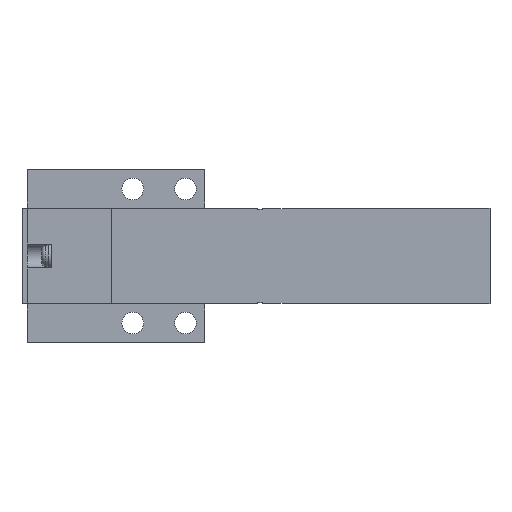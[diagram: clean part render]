
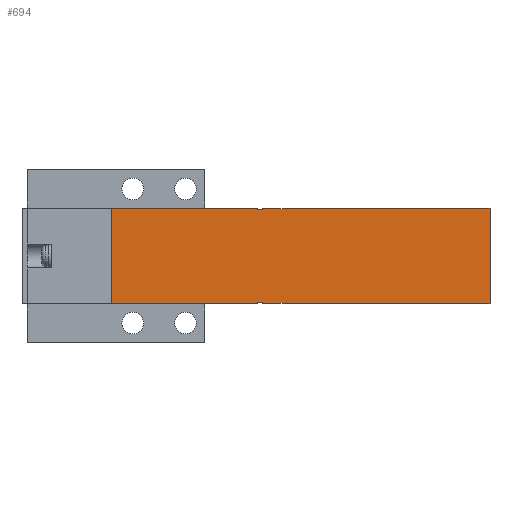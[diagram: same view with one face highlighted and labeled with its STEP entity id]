
A CAD part, front view. The second image highlights one B-rep face of the part: STEP entity #694.
In plain terms, the highlighted planar face has unit normal (0, -1, 0).
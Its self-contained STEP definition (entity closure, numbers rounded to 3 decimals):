
#694=ADVANCED_FACE('',(#1529),#1530,.F.);
#1529=FACE_OUTER_BOUND('',#2435,.T.);
#1530=PLANE('',#2436);
#2435=EDGE_LOOP('',(#5536,#5537,#5538,#5539,#5540,#5541,#5542,#5543,#5544,#5545,#5546,#5547,#5548,#5549,#5550,#5551,#5552,#5553,#5554,#5555,#5556,#5557,#5558,#5559));
#2436=AXIS2_PLACEMENT_3D('',#5560,#5561,#5562);
#5536=ORIENTED_EDGE('',*,*,#6568,.F.);
#5537=ORIENTED_EDGE('',*,*,#6765,.T.);
#5538=ORIENTED_EDGE('',*,*,#6648,.T.);
#5539=ORIENTED_EDGE('',*,*,#6640,.F.);
#5540=ORIENTED_EDGE('',*,*,#6795,.F.);
#5541=ORIENTED_EDGE('',*,*,#6783,.T.);
#5542=ORIENTED_EDGE('',*,*,#6793,.F.);
#5543=ORIENTED_EDGE('',*,*,#6741,.T.);
#5544=ORIENTED_EDGE('',*,*,#6736,.F.);
#5545=ORIENTED_EDGE('',*,*,#6618,.T.);
#5546=ORIENTED_EDGE('',*,*,#6597,.T.);
#5547=ORIENTED_EDGE('',*,*,#6693,.T.);
#5548=ORIENTED_EDGE('',*,*,#6682,.T.);
#5549=ORIENTED_EDGE('',*,*,#6800,.F.);
#5550=ORIENTED_EDGE('',*,*,#6797,.T.);
#5551=ORIENTED_EDGE('',*,*,#6643,.F.);
#5552=ORIENTED_EDGE('',*,*,#6654,.T.);
#5553=ORIENTED_EDGE('',*,*,#6764,.T.);
#5554=ORIENTED_EDGE('',*,*,#6554,.T.);
#5555=ORIENTED_EDGE('',*,*,#6791,.T.);
#5556=ORIENTED_EDGE('',*,*,#6700,.T.);
#5557=ORIENTED_EDGE('',*,*,#6626,.F.);
#5558=ORIENTED_EDGE('',*,*,#6606,.F.);
#5559=ORIENTED_EDGE('',*,*,#6766,.F.);
#5560=CARTESIAN_POINT('',(18.6,0.0,10.0));
#5561=DIRECTION('',(-0.0,1.0,0.0));
#5562=DIRECTION('',(1.0,0.0,0.0));
#6554=EDGE_CURVE('',#8085,#8086,#8087,.T.);
#6568=EDGE_CURVE('',#8108,#8111,#8112,.T.);
#6597=EDGE_CURVE('',#8165,#8163,#8166,.T.);
#6606=EDGE_CURVE('',#8179,#8182,#8183,.T.);
#6618=EDGE_CURVE('',#8203,#8165,#8204,.T.);
#6626=EDGE_CURVE('',#8182,#8214,#8218,.T.);
#6640=EDGE_CURVE('',#8243,#8244,#8245,.T.);
#6643=EDGE_CURVE('',#8247,#8249,#8250,.T.);
#6648=EDGE_CURVE('',#8256,#8244,#8258,.T.);
#6654=EDGE_CURVE('',#8247,#8267,#8269,.T.);
#6682=EDGE_CURVE('',#8314,#8312,#8315,.T.);
#6693=EDGE_CURVE('',#8163,#8314,#8334,.T.);
#6700=EDGE_CURVE('',#8336,#8214,#8345,.T.);
#6736=EDGE_CURVE('',#8203,#8396,#8397,.T.);
#6741=EDGE_CURVE('',#8405,#8396,#8406,.T.);
#6764=EDGE_CURVE('',#8267,#8085,#8439,.T.);
#6765=EDGE_CURVE('',#8108,#8256,#8440,.T.);
#6766=EDGE_CURVE('',#8111,#8179,#8441,.T.);
#6783=EDGE_CURVE('',#8462,#8460,#8463,.T.);
#6791=EDGE_CURVE('',#8086,#8336,#8472,.T.);
#6793=EDGE_CURVE('',#8405,#8460,#8474,.T.);
#6795=EDGE_CURVE('',#8462,#8243,#8476,.T.);
#6797=EDGE_CURVE('',#8478,#8249,#8479,.T.);
#6800=EDGE_CURVE('',#8478,#8312,#8482,.T.);
#8085=VERTEX_POINT('',#10558);
#8086=VERTEX_POINT('',#10559);
#8087=LINE('',#10560,#10561);
#8108=VERTEX_POINT('',#10618);
#8111=VERTEX_POINT('',#10622);
#8112=LINE('',#10623,#10624);
#8163=VERTEX_POINT('',#10702);
#8165=VERTEX_POINT('',#10705);
#8166=LINE('',#10706,#10707);
#8179=VERTEX_POINT('',#10726);
#8182=VERTEX_POINT('',#10730);
#8183=LINE('',#10731,#10732);
#8203=VERTEX_POINT('',#10763);
#8204=LINE('',#10764,#10765);
#8214=VERTEX_POINT('',#10780);
#8218=LINE('',#10786,#10787);
#8243=VERTEX_POINT('',#10821);
#8244=VERTEX_POINT('',#10822);
#8245=LINE('',#10823,#10824);
#8247=VERTEX_POINT('',#10827);
#8249=VERTEX_POINT('',#10830);
#8250=LINE('',#10831,#10832);
#8256=VERTEX_POINT('',#10841);
#8258=LINE('',#10844,#10845);
#8267=VERTEX_POINT('',#10858);
#8269=LINE('',#10861,#10862);
#8312=VERTEX_POINT('',#10927);
#8314=VERTEX_POINT('',#10930);
#8315=LINE('',#10931,#10932);
#8334=LINE('',#10957,#10958);
#8336=VERTEX_POINT('',#10961);
#8345=LINE('',#10975,#10976);
#8396=VERTEX_POINT('',#11061);
#8397=LINE('',#11062,#11063);
#8405=VERTEX_POINT('',#11074);
#8406=LINE('',#11075,#11076);
#8439=LINE('',#11130,#11131);
#8440=LINE('',#11132,#11133);
#8441=LINE('',#11134,#11135);
#8460=VERTEX_POINT('',#11168);
#8462=VERTEX_POINT('',#11171);
#8463=LINE('',#11172,#11173);
#8472=LINE('',#11188,#11189);
#8474=LINE('',#11192,#11193);
#8476=LINE('',#11196,#11197);
#8478=VERTEX_POINT('',#11200);
#8479=LINE('',#11201,#11202);
#8482=LINE('',#11207,#11208);
#10558=CARTESIAN_POINT('',(50.1,0.0,-9.9));
#10559=CARTESIAN_POINT('',(55.1,0.0,-9.9));
#10560=CARTESIAN_POINT('',(44.1,0.0,-9.9));
#10561=VECTOR('',#12334,1.0);
#10618=CARTESIAN_POINT('',(50.1,0.0,9.9));
#10622=CARTESIAN_POINT('',(55.1,0.0,9.9));
#10623=CARTESIAN_POINT('',(44.1,0.0,9.9));
#10624=VECTOR('',#12351,1.0);
#10702=CARTESIAN_POINT('',(35.1,0.0,-9.9));
#10705=CARTESIAN_POINT('',(18.6,0.0,-9.9));
#10706=CARTESIAN_POINT('',(18.6,0.0,-9.9));
#10707=VECTOR('',#12380,1.0);
#10726=CARTESIAN_POINT('',(55.1,0.0,10.0));
#10730=CARTESIAN_POINT('',(97.6,0.0,10.0));
#10731=CARTESIAN_POINT('',(18.6,0.0,10.0));
#10732=VECTOR('',#12391,1.0);
#10763=CARTESIAN_POINT('',(18.6,0.0,9.9));
#10764=CARTESIAN_POINT('',(18.6,0.0,10.0));
#10765=VECTOR('',#12403,1.0);
#10780=CARTESIAN_POINT('',(97.6,0.0,-10.0));
#10786=CARTESIAN_POINT('',(97.6,0.0,10.0));
#10787=VECTOR('',#12411,1.0);
#10821=CARTESIAN_POINT('',(49.1,0.0,9.9));
#10822=CARTESIAN_POINT('',(49.1,0.0,9.8));
#10823=CARTESIAN_POINT('',(49.1,0.0,10.0));
#10824=VECTOR('',#12433,1.0);
#10827=CARTESIAN_POINT('',(49.1,0.0,-9.8));
#10830=CARTESIAN_POINT('',(49.1,0.0,-9.9));
#10831=CARTESIAN_POINT('',(49.1,0.0,10.0));
#10832=VECTOR('',#12436,1.0);
#10841=CARTESIAN_POINT('',(50.1,0.0,9.8));
#10844=CARTESIAN_POINT('',(18.6,0.0,9.8));
#10845=VECTOR('',#12441,1.0);
#10858=CARTESIAN_POINT('',(50.1,0.0,-9.8));
#10861=CARTESIAN_POINT('',(18.6,0.0,-9.8));
#10862=VECTOR('',#12447,1.0);
#10927=CARTESIAN_POINT('',(44.1,0.0,-10.0));
#10930=CARTESIAN_POINT('',(35.1,0.0,-10.0));
#10931=CARTESIAN_POINT('',(18.6,0.0,-10.0));
#10932=VECTOR('',#12483,1.0);
#10957=CARTESIAN_POINT('',(35.1,0.0,-9.9));
#10958=VECTOR('',#12502,1.0);
#10961=CARTESIAN_POINT('',(55.1,0.0,-10.0));
#10975=CARTESIAN_POINT('',(18.6,0.0,-10.0));
#10976=VECTOR('',#12509,1.0);
#11061=CARTESIAN_POINT('',(35.1,0.0,9.9));
#11062=CARTESIAN_POINT('',(18.6,0.0,9.9));
#11063=VECTOR('',#12547,1.0);
#11074=CARTESIAN_POINT('',(35.1,0.0,10.0));
#11075=CARTESIAN_POINT('',(35.1,0.0,10.1));
#11076=VECTOR('',#12554,1.0);
#11130=CARTESIAN_POINT('',(50.1,0.0,10.0));
#11131=VECTOR('',#12579,1.0);
#11132=CARTESIAN_POINT('',(50.1,0.0,10.0));
#11133=VECTOR('',#12580,1.0);
#11134=CARTESIAN_POINT('',(55.1,0.0,9.9));
#11135=VECTOR('',#12581,1.0);
#11168=CARTESIAN_POINT('',(44.1,0.0,10.0));
#11171=CARTESIAN_POINT('',(44.1,0.0,9.9));
#11172=CARTESIAN_POINT('',(44.1,0.0,9.9));
#11173=VECTOR('',#12597,1.0);
#11188=CARTESIAN_POINT('',(55.1,0.0,-9.9));
#11189=VECTOR('',#12607,1.0);
#11192=CARTESIAN_POINT('',(18.6,0.0,10.0));
#11193=VECTOR('',#12609,1.0);
#11196=CARTESIAN_POINT('',(44.1,0.0,9.9));
#11197=VECTOR('',#12611,1.0);
#11200=CARTESIAN_POINT('',(44.1,0.0,-9.9));
#11201=CARTESIAN_POINT('',(44.1,0.0,-9.9));
#11202=VECTOR('',#12613,1.0);
#11207=CARTESIAN_POINT('',(44.1,0.0,-9.9));
#11208=VECTOR('',#12616,1.0);
#12334=DIRECTION('',(1.0,0.0,0.0));
#12351=DIRECTION('',(1.0,0.0,0.0));
#12380=DIRECTION('',(1.0,0.0,0.0));
#12391=DIRECTION('',(1.0,0.0,0.0));
#12403=DIRECTION('',(0.0,0.0,-1.0));
#12411=DIRECTION('',(0.0,0.0,-1.0));
#12433=DIRECTION('',(0.0,0.0,-1.0));
#12436=DIRECTION('',(0.0,0.0,-1.0));
#12441=DIRECTION('',(-1.0,0.0,0.0));
#12447=DIRECTION('',(1.0,0.0,0.0));
#12483=DIRECTION('',(1.0,0.0,0.0));
#12502=DIRECTION('',(0.0,0.0,-1.0));
#12509=DIRECTION('',(1.0,0.0,0.0));
#12547=DIRECTION('',(1.0,0.0,0.0));
#12554=DIRECTION('',(0.0,0.0,-1.0));
#12579=DIRECTION('',(0.0,0.0,-1.0));
#12580=DIRECTION('',(0.0,0.0,-1.0));
#12581=DIRECTION('',(0.0,0.0,1.0));
#12597=DIRECTION('',(0.0,0.0,1.0));
#12607=DIRECTION('',(0.0,0.0,-1.0));
#12609=DIRECTION('',(1.0,0.0,0.0));
#12611=DIRECTION('',(1.0,0.0,0.0));
#12613=DIRECTION('',(1.0,0.0,0.0));
#12616=DIRECTION('',(0.0,0.0,-1.0));
